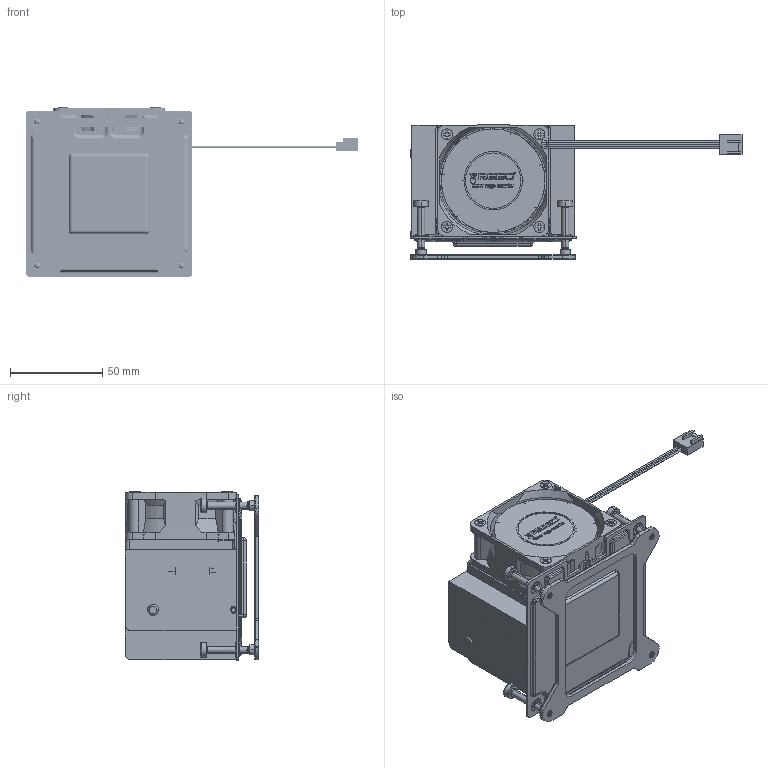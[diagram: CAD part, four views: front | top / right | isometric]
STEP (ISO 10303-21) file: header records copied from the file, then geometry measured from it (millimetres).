
FILE_DESCRIPTION((''),'2;1');
FILE_NAME('RGD3226VCHP-EF75-002_ME_ASM','2022-10-11T',('User'),(''),'PRO/ENGINEER BY PARAMETRIC TECHNOLOGY CORPORATION, 2017170','PRO/ENGINEER BY PARAMETRIC TECHNOLOGY CORPORATION, 2017170','');
FILE_SCHEMA(('CONFIG_CONTROL_DESIGN'));
Products named in the file (19): RGD3226VCHP_HEAT_PIPE_D_1_1_1; RGD3226VCHP_VC_D_1_1_1; RGD3226VCHP_FAN_COVER_D_1_1_1; 6025_FRAME_1_1_1_1; 6025-IM_1_1_1_1; LABEL_R30_1_1_1_1; 4P-PLUGZ_1_1_1; FAN_SCREW_T3X32MM_1_1_1; EF6274_6025FAN_ASSY_ASM_1_ASM_1_ASM; SCREW_1_1_3; NETW3_1_1_3; O_RING_1_1_3; SCREW_ASSY_ASM_1_ASM_5_ASM; 850-BP-1700_1_1_2; ADHESIVE_1_1_4; MYLAR_1_1_4; 850-BP1700_ASM_1_ASM_2_ASM; RGD3226VCHP-EF75-002_ME_ASM_1_ASM; RGD3226VCHP-EF75-002_ME_ASM
Assembly tree (25 placements, depth 4):
  RGD3226VCHP-EF75-002_ME_ASM
    RGD3226VCHP-EF75-002_ME_ASM_1_ASM
      RGD3226VCHP_HEAT_PIPE_D_1_1_1  x2
      RGD3226VCHP_VC_D_1_1_1
      RGD3226VCHP_FAN_COVER_D_1_1_1
      EF6274_6025FAN_ASSY_ASM_1_ASM_1_ASM
        6025_FRAME_1_1_1_1
        6025-IM_1_1_1_1
        LABEL_R30_1_1_1_1
        4P-PLUGZ_1_1_1
        FAN_SCREW_T3X32MM_1_1_1  x4
      SCREW_ASSY_ASM_1_ASM_5_ASM  x4
        SCREW_1_1_3
        NETW3_1_1_3
        O_RING_1_1_3
      850-BP1700_ASM_1_ASM_2_ASM
        850-BP-1700_1_1_2
        ADHESIVE_1_1_4
        MYLAR_1_1_4
Bounding box: 179.6 x 72.48 x 91.83 mm (x, y, z)
Volume: 399972.3 mm3; surface area: 103414.6 mm2
Topology: 27 solids, 41 shells, 2673 faces, 7364 edges, 4765 vertices
Faces by surface type: cylinder 1097, plane 976, torus 173, bspline 140, cone 105, extrusion 101, sphere 81
Entity records: 98638 total; most frequent: CARTESIAN_POINT 50586, ORIENTED_EDGE 10397, DIRECTION 9371, EDGE_CURVE 5238, VERTEX_POINT 3471, AXIS2_PLACEMENT_3D 3341, VECTOR 2689, LINE 2591
